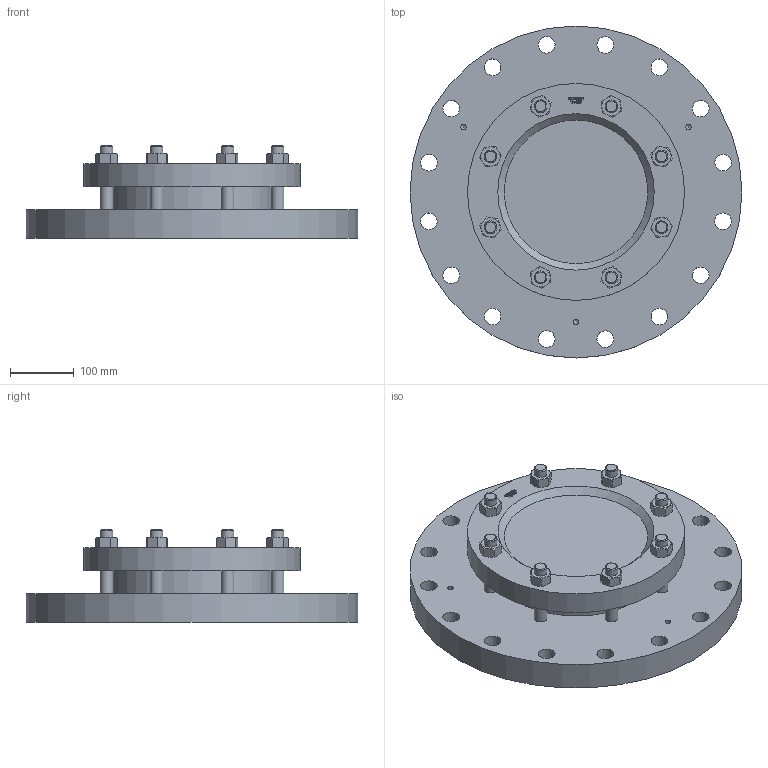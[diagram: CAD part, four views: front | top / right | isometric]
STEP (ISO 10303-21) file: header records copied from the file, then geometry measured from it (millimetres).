
FILE_DESCRIPTION(/* description */ (''),/* implementation_level */ '2;1');
FILE_NAME(/* name */ 'W:\Konstruktion_ACI\325\_STEP\325-350-16.stp',/* time_stamp */ '2022-03-02T17:06:39+01:00',/* author */ ('koslowksi'),/* organization */ (''),/* preprocessor_version */ 'ST-DEVELOPER v16.1',/* originating_system */ 'Autodesk Inventor 2016',/* authorisation */ '');
FILE_SCHEMA (('AUTOMOTIVE_DESIGN { 1 0 10303 214 3 1 1 }'));
Length unit declared in the file: millimetre
Products named in the file (1): 325-350-16
Bounding box: 520 x 520 x 145 mm (x, y, z)
Volume: 14077224.9 mm3; surface area: 723632.1 mm2
Topology: 1 solids, 1 shells, 453 faces, 1156 edges, 743 vertices
Faces by surface type: plane 199, cone 108, bspline 108, cylinder 38
Full cylindrical faces by diameter (mm): 8.376 x3, 20 x16, 26 x16, 256 x1, 340 x1, 520 x1
Entity records: 14010 total; most frequent: CARTESIAN_POINT 4037, ORIENTED_EDGE 2158, DIRECTION 1545, EDGE_CURVE 1079, VERTEX_POINT 716, EDGE_LOOP 589, AXIS2_PLACEMENT_3D 528, LINE 489
